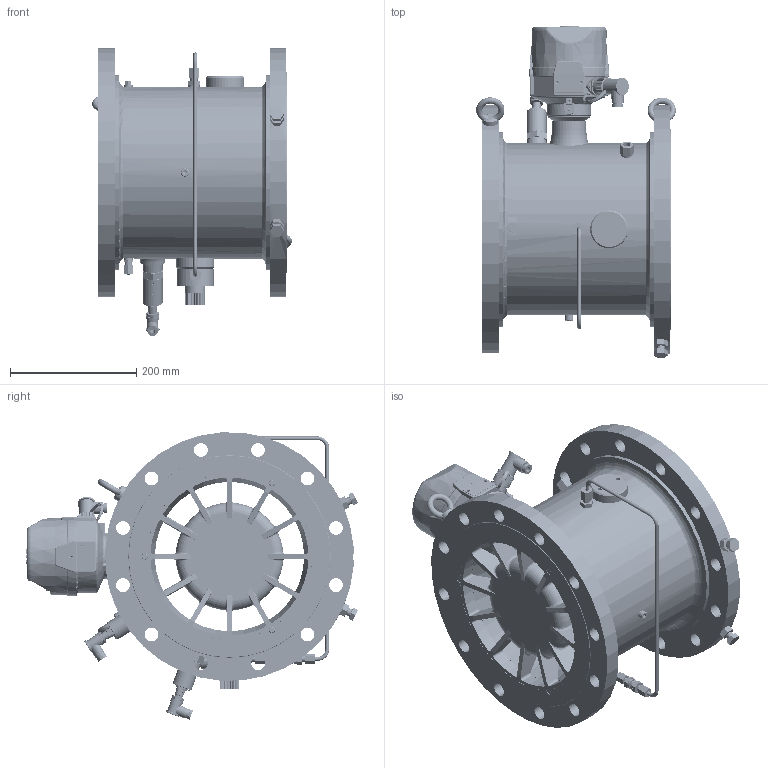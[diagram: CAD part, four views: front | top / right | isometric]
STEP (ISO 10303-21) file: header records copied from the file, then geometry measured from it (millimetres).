
FILE_DESCRIPTION((''),'2;1');
FILE_NAME('TRZ03-K_DN250_PN10_R_ASM','2025-12-08T15:06:32',('R74497'),(''),'CREO PARAMETRIC BY PTC INC, 2024273','CREO PARAMETRIC BY PTC INC, 2024273','');
FILE_SCHEMA(('CONFIG_CONTROL_DESIGN','SHAPE_APPEARANCE_LAYERS_GROUPS'));
Length unit declared in the file: millimetre
Products named in the file (91): TRZ03-K_DN250_PN10_ROHR_ROH_AF0; TRZ03-K_DN250_PN10_FLANSCH_ROH_AF1; TRZ03-K_DN250_PN10_FLANSCH_ROH_AF0; 062903_4_V00_AF0; 056772_4_AF0; 056772_4; TRZ03-K_DN250_PN10_RUNDNAHT_1_AF0; TRZ03-K_DN250_PN10_RUNDNAHT_2_AF1; TRZ03-K_DN250_PN10_NAHT_ZW_AF0; 063674_4_AF0; 063674_4_AF1; TRZ03-K_DN250_PN10_NAHT_HF3_1_AF0; 933M12X35; 934M12; TRZ03-K_DN250_PN10_NAHT_HF3_2_AF1; TRZ03-K_DN250_PN10_FERTIG_ASM; 062953_4; 1M6X20; O-RING_52X2_5; GEHAEUSE_TRZ03_ZWF_PED-2012; 054578_2; 965M3X6; STECKER_WINKEL_ZWF_PED-2012; STECKVERBINDER_ZWF_PED-2012; AM3X10_DIN404_ZWF_PED-2012; 84M3X8; STECKER_FA_BINDER_ZWF_PED-2012_ASM; LASCHE_ZWF_PED-2012; KERBNAGEL_ZWF_PED-2012; PLEXIGLASSCHEIBE_ZWF_PED-2012; SCHILD_SCHRAEG_ZWF_PED-2012; 551M6X10; 055027_4I; RADIALKUGELLAGER_3X7X3; 055027_4C; 055027_4F; KNEBELKERBSTIFT_2_L30; 055027_4A; 055027_4D; 055027_4B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
Assembly tree (120 placements, depth 5):
  TRZ03-K_DN250_PN10_R_ASM
    TRZ03-K_DN250_PN10_FERTIG_ASM
      TRZ03-K_DN250_PN10_ROHR_ROH_AF0
      TRZ03-K_DN250_PN10_FLANSCH_ROH_AF1
      TRZ03-K_DN250_PN10_FLANSCH_ROH_AF0
      062903_4_V00_AF0
      056772_4_AF0
      056772_4
      TRZ03-K_DN250_PN10_RUNDNAHT_1_AF0
      TRZ03-K_DN250_PN10_RUNDNAHT_2_AF1
      TRZ03-K_DN250_PN10_NAHT_ZW_AF0
      063674_4_AF0
      063674_4_AF1
      TRZ03-K_DN250_PN10_NAHT_HF3_1_AF0
      933M12X35  x2
      934M12  x2
      TRZ03-K_DN250_PN10_NAHT_HF3_2_AF1
    BAUGRUPPE_ZWF_PED-2012_VEREINF_ASM
      062953_4
      1M6X20  x6
      O-RING_52X2_5
      GEHAEUSE_TRZ03_ZWF_PED-2012
      054578_2
      965M3X6  x2
      STECKER_FA_BINDER_ZWF_PED-2012_ASM
        STECKER_WINKEL_ZWF_PED-2012
        STECKVERBINDER_ZWF_PED-2012
        AM3X10_DIN404_ZWF_PED-2012
        84M3X8
      LASCHE_ZWF_PED-2012
      KERBNAGEL_ZWF_PED-2012  x5
      PLEXIGLASSCHEIBE_ZWF_PED-2012
      SCHILD_SCHRAEG_ZWF_PED-2012
      551M6X10  x3
      063240_4_ASM
        055027_4I
        RADIALKUGELLAGER_3X7X3  x4
        055027_4C
        055027_4F
        KNEBELKERBSTIFT_2_L30  x2
        055027_4A
        055027_4D
        055027_4B
        055027_4E
        051409_4
        055027_4G
    DICHTRING_G1_4ZOLL  x3
    054365_4  x2
    063969_4_ASM
      VERSCHR_G1_4_ERMETO_GE06SRCF
      063635_4_DN200_TERZ
    DICHTRING_G1_8ZOLL  x2
    VERSCHR_G1_8_ERMETO_GE06PLRG
    PR_KUGEL_TRZ
    VERSCHLUSSSCHRAUBE_G1_8_DIN910
    PUMPE_SN_90_59_266_00_ASM
      MITTELTEIL_SN_90_59_266_00
      BEHAELTER_SN_90_59_266_00
      VERSCHRAUBUNG__SN_90_59_266_00
    1M8X25  x2
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Bounding box: 316.97 x 526.66 x 456.02 mm (x, y, z)
Volume: 7807845.5 mm3; surface area: 1707926.2 mm2
Topology: 123 solids, 168 shells, 4447 faces, 10859 edges, 6754 vertices
Faces by surface type: plane 1798, cylinder 1393, cone 477, torus 362, bspline 267, extrusion 106, sphere 44
Entity records: 129255 total; most frequent: CARTESIAN_POINT 41869, DIRECTION 16785, ORIENTED_EDGE 16124, EDGE_CURVE 8125, AXIS2_PLACEMENT_3D 6532, VERTEX_POINT 5180, EDGE_LOOP 3795, VECTOR 3721
